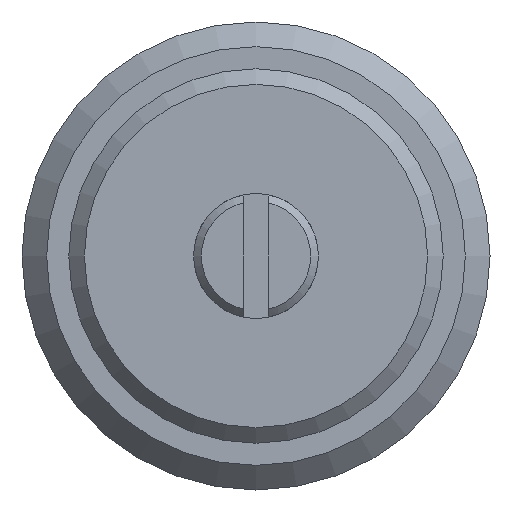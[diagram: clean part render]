
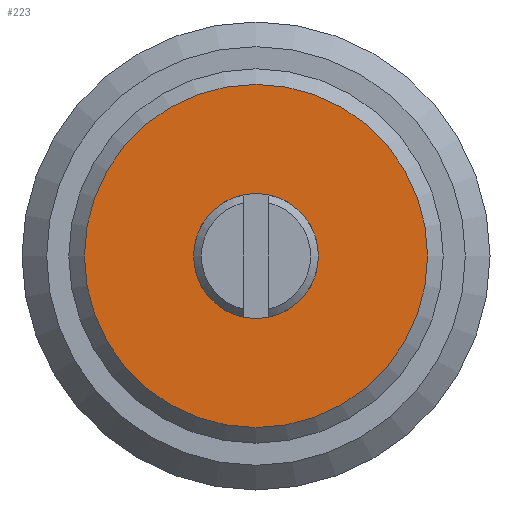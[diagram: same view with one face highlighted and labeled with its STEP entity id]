
A CAD part, front view. The second image highlights one B-rep face of the part: STEP entity #223.
In plain terms, the highlighted planar face has unit normal (0, -1, 0).
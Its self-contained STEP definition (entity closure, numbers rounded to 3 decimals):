
#21=FACE_BOUND('',#79,.T.);
#36=CIRCLE('',#240,2.);
#42=CIRCLE('',#252,5.5);
#57=FACE_OUTER_BOUND('',#78,.T.);
#78=EDGE_LOOP('',(#196));
#79=EDGE_LOOP('',(#197));
#117=VERTEX_POINT('',#373);
#122=VERTEX_POINT('',#390);
#142=EDGE_CURVE('',#117,#117,#36,.T.);
#148=EDGE_CURVE('',#122,#122,#42,.T.);
#196=ORIENTED_EDGE('',*,*,#148,.F.);
#197=ORIENTED_EDGE('',*,*,#142,.F.);
#209=PLANE('',#253);
#223=ADVANCED_FACE('',(#57,#21),#209,.T.);
#240=AXIS2_PLACEMENT_3D('',#374,#291,#292);
#252=AXIS2_PLACEMENT_3D('',#391,#315,#316);
#253=AXIS2_PLACEMENT_3D('',#392,#317,#318);
#291=DIRECTION('center_axis',(0.,-1.,0.));
#292=DIRECTION('ref_axis',(1.,0.,0.));
#315=DIRECTION('center_axis',(0.,1.,0.));
#316=DIRECTION('ref_axis',(-1.,0.,0.));
#317=DIRECTION('center_axis',(0.,-1.,0.));
#318=DIRECTION('ref_axis',(0.,0.,-1.));
#373=CARTESIAN_POINT('',(2.,0.,0.));
#374=CARTESIAN_POINT('Origin',(0.,0.,0.));
#390=CARTESIAN_POINT('',(5.5,0.,0.));
#391=CARTESIAN_POINT('Origin',(0.,0.,0.));
#392=CARTESIAN_POINT('Origin',(2.,0.,0.));
